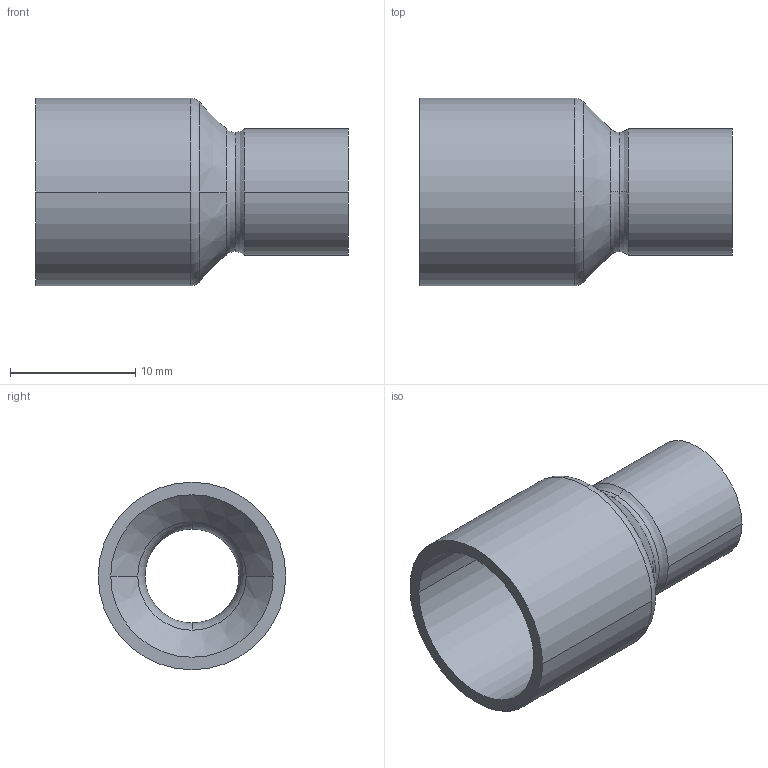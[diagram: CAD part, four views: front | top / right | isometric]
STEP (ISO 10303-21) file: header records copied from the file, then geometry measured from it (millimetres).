
FILE_DESCRIPTION((''),'2;1');
FILE_NAME('G:\Technics\CAD\Bauteile\Serie 15243\15243158.stp','2005-10-21T12:49:30',('boden'),(''),'Autodesk Inventor 8','Autodesk Inventor 8','');
FILE_SCHEMA(('AUTOMOTIVE_DESIGN { 1 0 10303 214 1 1 1 1 }'));
Length unit declared in the file: millimetre
Products named in the file (1): 15243158
Bounding box: 25 x 15 x 15 mm (x, y, z)
Volume: 964.5 mm3; surface area: 2001.9 mm2
Topology: 1 solids, 1 shells, 24 faces, 60 edges, 38 vertices
Faces by surface type: cylinder 8, torus 6, bspline 4, cone 4, plane 2
Entity records: 931 total; most frequent: CARTESIAN_POINT 299, DIRECTION 150, ORIENTED_EDGE 120, AXIS2_PLACEMENT_3D 69, EDGE_CURVE 60, CIRCLE 48, VERTEX_POINT 38, EDGE_LOOP 26
